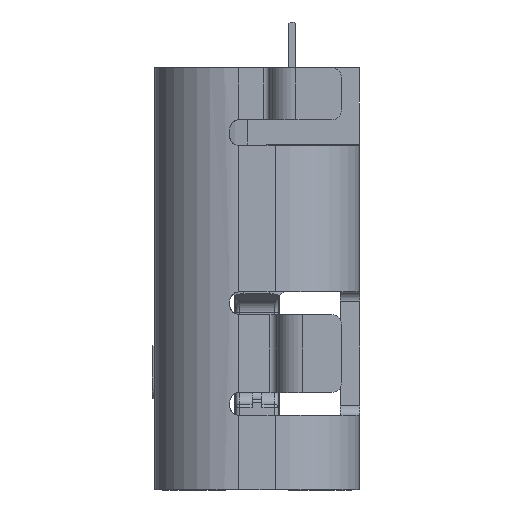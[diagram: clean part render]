
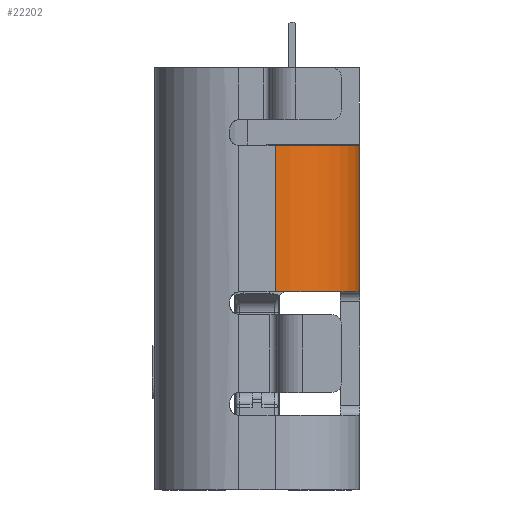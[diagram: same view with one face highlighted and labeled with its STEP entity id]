
A CAD part, left-side view. The second image highlights one B-rep face of the part: STEP entity #22202.
In plain terms, the highlighted cylindrical face has radius 1.3 mm (diameter 2.6 mm), a partial arc.
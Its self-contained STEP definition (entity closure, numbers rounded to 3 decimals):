
#760 = CYLINDRICAL_SURFACE ( 'NONE', #1067, 1.3 ) ;
#794 = DIRECTION ( 'NONE',  ( -1., 0., 0. ) ) ;
#828 = CARTESIAN_POINT ( 'NONE',  ( -0.444, 5.216, -4.548 ) ) ;
#1067 = AXIS2_PLACEMENT_3D ( 'NONE', #6128, #13931, #9772 ) ;
#2197 = DIRECTION ( 'NONE',  ( 0., 0., -1. ) ) ;
#2235 = DIRECTION ( 'NONE',  ( -1., 0., 0. ) ) ;
#3069 = CARTESIAN_POINT ( 'NONE',  ( -1.744, 6.516, -4.548 ) ) ;
#3420 = LINE ( 'NONE', #21847, #21143 ) ;
#3797 = LINE ( 'NONE', #22341, #16437 ) ;
#3976 = CIRCLE ( 'NONE', #15275, 1.3 ) ;
#6128 = CARTESIAN_POINT ( 'NONE',  ( -0.444, 6.516, -4.548 ) ) ;
#8712 = CARTESIAN_POINT ( 'NONE',  ( -0.444, 6.516, -2.298 ) ) ;
#9106 = EDGE_CURVE ( 'NONE', #18678, #22331, #3797, .T. ) ;
#9772 = DIRECTION ( 'NONE',  ( -1., 0., 0. ) ) ;
#9785 = ORIENTED_EDGE ( 'NONE', *, *, #11421, .F. ) ;
#10061 = ORIENTED_EDGE ( 'NONE', *, *, #14881, .T. ) ;
#10629 = ORIENTED_EDGE ( 'NONE', *, *, #10847, .T. ) ;
#10847 = EDGE_CURVE ( 'NONE', #22331, #15930, #3976, .T. ) ;
#11421 = EDGE_CURVE ( 'NONE', #13424, #15930, #3420, .T. ) ;
#12232 = CIRCLE ( 'NONE', #19242, 1.3 ) ;
#13424 = VERTEX_POINT ( 'NONE', #21369 ) ;
#13931 = DIRECTION ( 'NONE',  ( 0., 0., -1. ) ) ;
#14486 = EDGE_LOOP ( 'NONE', ( #23169, #10629, #9785, #10061 ) ) ;
#14528 = DIRECTION ( 'NONE',  ( 0., 0., -1. ) ) ;
#14881 = EDGE_CURVE ( 'NONE', #13424, #18678, #12232, .T. ) ;
#15164 = CARTESIAN_POINT ( 'NONE',  ( -0.444, 6.516, -4.548 ) ) ;
#15275 = AXIS2_PLACEMENT_3D ( 'NONE', #15164, #18824, #2235 ) ;
#15930 = VERTEX_POINT ( 'NONE', #828 ) ;
#16437 = VECTOR ( 'NONE', #2197, 1000. ) ;
#16632 = CARTESIAN_POINT ( 'NONE',  ( -1.744, 6.516, -2.298 ) ) ;
#17739 = DIRECTION ( 'NONE',  ( 0., 0., -1. ) ) ;
#18678 = VERTEX_POINT ( 'NONE', #16632 ) ;
#18824 = DIRECTION ( 'NONE',  ( 0., 0., 1. ) ) ;
#19242 = AXIS2_PLACEMENT_3D ( 'NONE', #8712, #17739, #794 ) ;
#21143 = VECTOR ( 'NONE', #14528, 1000. ) ;
#21369 = CARTESIAN_POINT ( 'NONE',  ( -0.444, 5.216, -2.298 ) ) ;
#21847 = CARTESIAN_POINT ( 'NONE',  ( -0.444, 5.216, -1.098 ) ) ;
#22202 = ADVANCED_FACE ( 'NONE', ( #23199 ), #760, .T. ) ;
#22331 = VERTEX_POINT ( 'NONE', #3069 ) ;
#22341 = CARTESIAN_POINT ( 'NONE',  ( -1.744, 6.516, -3.423 ) ) ;
#23169 = ORIENTED_EDGE ( 'NONE', *, *, #9106, .T. ) ;
#23199 = FACE_OUTER_BOUND ( 'NONE', #14486, .T. ) ;
